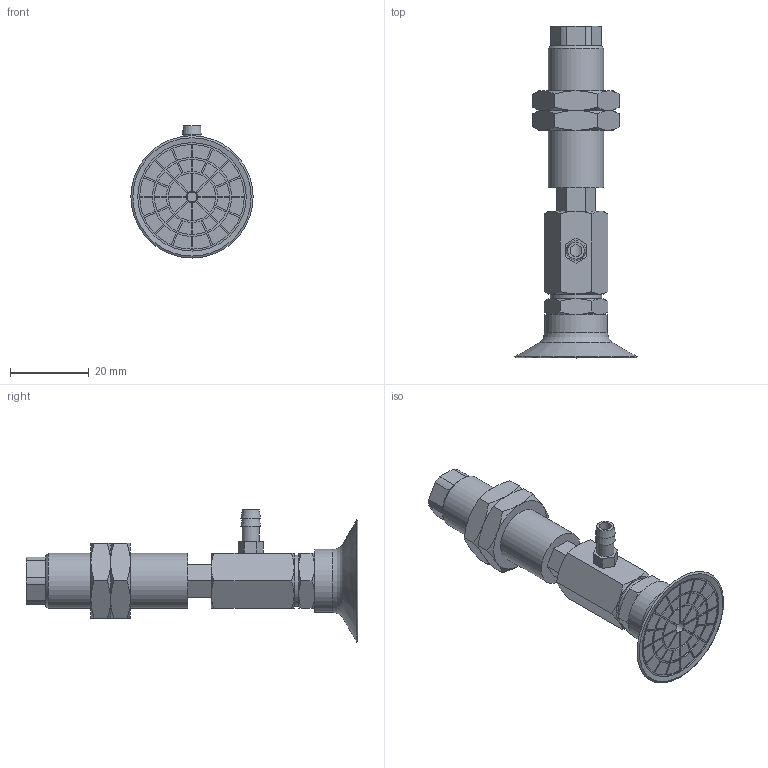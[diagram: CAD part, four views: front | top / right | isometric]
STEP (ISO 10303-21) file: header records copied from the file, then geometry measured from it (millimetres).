
FILE_DESCRIPTION(('STEP AP203'),'1');
FILE_NAME('-T.stp','2025-03-13T07:48:46',(' '),(' '),'Spatial InterOp 3D',' ',' ');
FILE_SCHEMA(('CONFIG_CONTROL_DESIGN'));
Length unit declared in the file: millimetre
Products named in the file (8): BNABPAYH-30B-6-※-T; NAPATH-30B-6--M; NAPATH-30B-6--F; Nut-25-S; CONNECTOR-30B-6-PA; TN-PA-30B-M6; CONNECTOR-10A-3-T-PA; BPAG-30B-※
Assembly tree (8 placements, depth 2):
  BNABPAYH-30B-6-※-T
    NAPATH-30B-6--M
    NAPATH-30B-6--F
    Nut-25-S  x2
    CONNECTOR-30B-6-PA
    TN-PA-30B-M6
    CONNECTOR-10A-3-T-PA
    BPAG-30B-※
Bounding box: 31.04 x 84.2 x 33.52 mm (x, y, z)
Volume: 15412.8 mm3; surface area: 12038.5 mm2
Topology: 8 solids, 8 shells, 392 faces, 908 edges, 581 vertices
Faces by surface type: plane 219, cylinder 99, cone 68, torus 6
Full cylindrical faces by diameter (mm): 2.5 x1, 3 x3, 4.134 x2, 4.3 x1, 4.917 x1, 5 x2, 6 x3, 10 x2, 12.917 x2, 13 x1, 14 x1, 16 x1, 27.5 x1
Entity records: 10940 total; most frequent: CARTESIAN_POINT 2177, DIRECTION 1768, ORIENTED_EDGE 1622, EDGE_CURVE 811, AXIS2_PLACEMENT_3D 654, VERTEX_POINT 547, EDGE_LOOP 474, LINE 460
